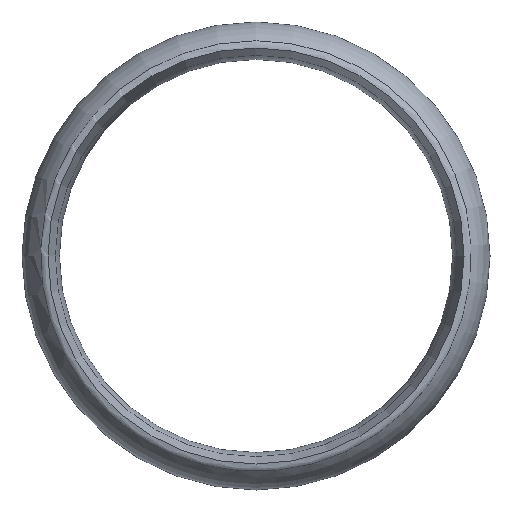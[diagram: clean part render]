
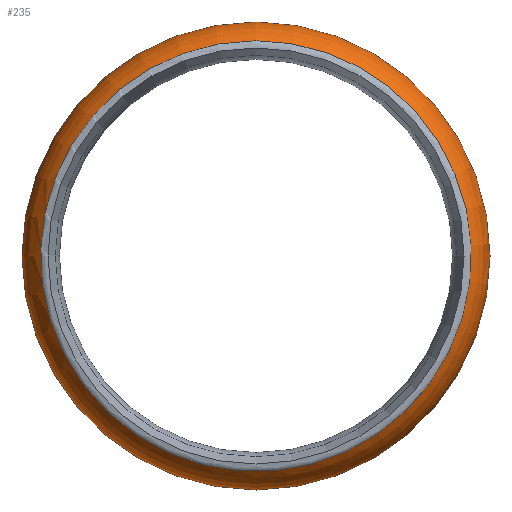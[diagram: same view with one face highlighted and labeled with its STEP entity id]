
A CAD part, front view. The second image highlights one B-rep face of the part: STEP entity #235.
In plain terms, the highlighted toroidal (fillet/blend) face has major radius 24.795 mm and minor radius 9 mm.
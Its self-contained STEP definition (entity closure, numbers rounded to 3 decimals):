
#9 = DIRECTION ( 'NONE',  ( 0.479, 0., 0.878 ) ) ;
#21 = EDGE_CURVE ( 'NONE', #26, #26, #234, .T. ) ;
#26 = VERTEX_POINT ( 'NONE', #253 ) ;
#49 = DIRECTION ( 'NONE',  ( -1., 0., 0. ) ) ;
#68 = DIRECTION ( 'NONE',  ( 0., 0., 1. ) ) ;
#89 = AXIS2_PLACEMENT_3D ( 'NONE', #103, #165, #49 ) ;
#102 = CARTESIAN_POINT ( 'NONE',  ( 0., -1.5, 33.75 ) ) ;
#103 = CARTESIAN_POINT ( 'NONE',  ( 0., -0.6, 0. ) ) ;
#110 = FACE_OUTER_BOUND ( 'NONE', #209, .T. ) ;
#122 = EDGE_LOOP ( 'NONE', ( #251 ) ) ;
#146 = DIRECTION ( 'NONE',  ( 0., 1., 0. ) ) ;
#156 = TOROIDAL_SURFACE ( 'NONE', #89, 24.795, 9. ) ;
#165 = DIRECTION ( 'NONE',  ( 0., 1., 0. ) ) ;
#175 = AXIS2_PLACEMENT_3D ( 'NONE', #193, #146, #68 ) ;
#192 = DIRECTION ( 'NONE',  ( 0., 1., 0. ) ) ;
#193 = CARTESIAN_POINT ( 'NONE',  ( 0., -1.5, 0. ) ) ;
#196 = AXIS2_PLACEMENT_3D ( 'NONE', #232, #192, #9 ) ;
#199 = CIRCLE ( 'NONE', #175, 33.75 ) ;
#202 = ORIENTED_EDGE ( 'NONE', *, *, #221, .F. ) ;
#205 = VERTEX_POINT ( 'NONE', #102 ) ;
#209 = EDGE_LOOP ( 'NONE', ( #202 ) ) ;
#221 = EDGE_CURVE ( 'NONE', #205, #205, #199, .T. ) ;
#231 = FACE_OUTER_BOUND ( 'NONE', #122, .T. ) ;
#232 = CARTESIAN_POINT ( 'NONE',  ( 0., -7.08, 0. ) ) ;
#234 = CIRCLE ( 'NONE', #196, 31.041 ) ;
#235 = ADVANCED_FACE ( 'NONE', ( #231, #110 ), #156, .T. ) ;
#251 = ORIENTED_EDGE ( 'NONE', *, *, #21, .T. ) ;
#253 = CARTESIAN_POINT ( 'NONE',  ( 14.882, -7.08, 27.241 ) ) ;
